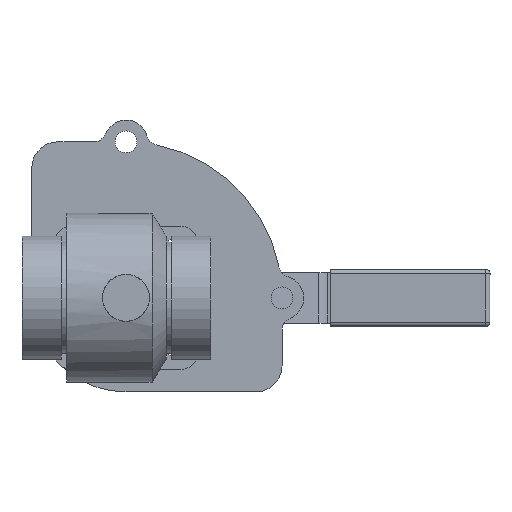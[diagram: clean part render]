
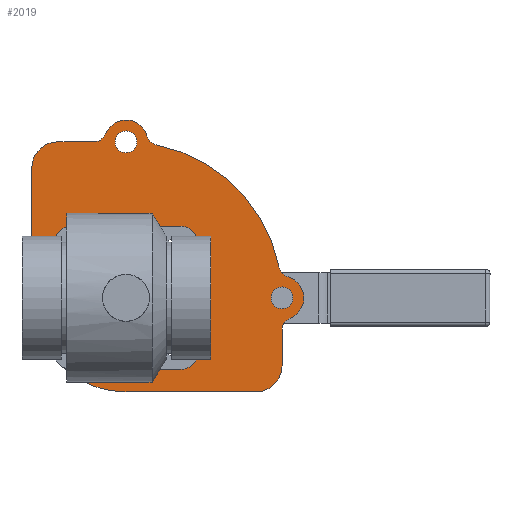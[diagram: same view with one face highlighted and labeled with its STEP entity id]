
A CAD part, front view. The second image highlights one B-rep face of the part: STEP entity #2019.
In plain terms, the highlighted planar face has unit normal (0, -1, 0).
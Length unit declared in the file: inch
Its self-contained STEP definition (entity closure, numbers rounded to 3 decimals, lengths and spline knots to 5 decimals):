
#53=FACE_BOUND('',#309,.T.);
#54=FACE_BOUND('',#310,.T.);
#55=FACE_BOUND('',#311,.T.);
#56=FACE_BOUND('',#312,.T.);
#57=FACE_BOUND('',#313,.T.);
#58=FACE_BOUND('',#314,.T.);
#59=FACE_BOUND('',#315,.T.);
#94=PLANE('',#2322);
#184=FACE_OUTER_BOUND('',#308,.T.);
#308=EDGE_LOOP('',(#1543,#1544,#1545,#1546,#1547,#1548,#1549,#1550,#1551,
#1552,#1553,#1554,#1555,#1556));
#309=EDGE_LOOP('',(#1557));
#310=EDGE_LOOP('',(#1558));
#311=EDGE_LOOP('',(#1559));
#312=EDGE_LOOP('',(#1560));
#313=EDGE_LOOP('',(#1561));
#314=EDGE_LOOP('',(#1562));
#315=EDGE_LOOP('',(#1563));
#425=LINE('',#3354,#576);
#429=LINE('',#3366,#580);
#439=LINE('',#3414,#590);
#443=LINE('',#3425,#594);
#576=VECTOR('',#2697,0.3937);
#580=VECTOR('',#2709,0.3937);
#590=VECTOR('',#2763,0.3937);
#594=VECTOR('',#2775,0.3937);
#727=CIRCLE('',#2269,0.21);
#729=CIRCLE('',#2272,0.19);
#731=CIRCLE('',#2275,0.19);
#733=CIRCLE('',#2278,0.19);
#735=CIRCLE('',#2281,0.19);
#737=CIRCLE('',#2284,0.21);
#739=CIRCLE('',#2287,0.36);
#740=CIRCLE('',#2289,1.81);
#742=CIRCLE('',#2293,0.5);
#744=CIRCLE('',#2297,0.25);
#746=CIRCLE('',#2300,0.42);
#748=CIRCLE('',#2303,0.25);
#750=CIRCLE('',#2306,3.);
#752=CIRCLE('',#2309,0.25);
#754=CIRCLE('',#2312,0.42);
#756=CIRCLE('',#2315,0.25);
#758=CIRCLE('',#2319,0.5);
#869=VERTEX_POINT('',#3304);
#871=VERTEX_POINT('',#3310);
#873=VERTEX_POINT('',#3316);
#875=VERTEX_POINT('',#3322);
#877=VERTEX_POINT('',#3328);
#879=VERTEX_POINT('',#3334);
#881=VERTEX_POINT('',#3340);
#882=VERTEX_POINT('',#3344);
#883=VERTEX_POINT('',#3345);
#886=VERTEX_POINT('',#3353);
#888=VERTEX_POINT('',#3359);
#890=VERTEX_POINT('',#3365);
#892=VERTEX_POINT('',#3371);
#894=VERTEX_POINT('',#3377);
#896=VERTEX_POINT('',#3383);
#898=VERTEX_POINT('',#3389);
#900=VERTEX_POINT('',#3395);
#902=VERTEX_POINT('',#3401);
#904=VERTEX_POINT('',#3407);
#906=VERTEX_POINT('',#3413);
#908=VERTEX_POINT('',#3419);
#1083=EDGE_CURVE('',#869,#869,#727,.T.);
#1086=EDGE_CURVE('',#871,#871,#729,.T.);
#1089=EDGE_CURVE('',#873,#873,#731,.T.);
#1092=EDGE_CURVE('',#875,#875,#733,.T.);
#1095=EDGE_CURVE('',#877,#877,#735,.T.);
#1098=EDGE_CURVE('',#879,#879,#737,.T.);
#1101=EDGE_CURVE('',#881,#881,#739,.T.);
#1102=EDGE_CURVE('',#882,#883,#740,.T.);
#1106=EDGE_CURVE('',#883,#886,#425,.T.);
#1109=EDGE_CURVE('',#886,#888,#742,.T.);
#1112=EDGE_CURVE('',#888,#890,#429,.T.);
#1115=EDGE_CURVE('',#890,#892,#744,.T.);
#1118=EDGE_CURVE('',#892,#894,#746,.T.);
#1121=EDGE_CURVE('',#894,#896,#748,.T.);
#1124=EDGE_CURVE('',#896,#898,#750,.T.);
#1127=EDGE_CURVE('',#898,#900,#752,.T.);
#1130=EDGE_CURVE('',#900,#902,#754,.T.);
#1133=EDGE_CURVE('',#902,#904,#756,.T.);
#1136=EDGE_CURVE('',#904,#906,#439,.T.);
#1139=EDGE_CURVE('',#906,#908,#758,.T.);
#1142=EDGE_CURVE('',#908,#882,#443,.T.);
#1543=ORIENTED_EDGE('',*,*,#1142,.T.);
#1544=ORIENTED_EDGE('',*,*,#1102,.T.);
#1545=ORIENTED_EDGE('',*,*,#1106,.T.);
#1546=ORIENTED_EDGE('',*,*,#1109,.T.);
#1547=ORIENTED_EDGE('',*,*,#1112,.T.);
#1548=ORIENTED_EDGE('',*,*,#1115,.T.);
#1549=ORIENTED_EDGE('',*,*,#1118,.T.);
#1550=ORIENTED_EDGE('',*,*,#1121,.T.);
#1551=ORIENTED_EDGE('',*,*,#1124,.T.);
#1552=ORIENTED_EDGE('',*,*,#1127,.T.);
#1553=ORIENTED_EDGE('',*,*,#1130,.T.);
#1554=ORIENTED_EDGE('',*,*,#1133,.T.);
#1555=ORIENTED_EDGE('',*,*,#1136,.T.);
#1556=ORIENTED_EDGE('',*,*,#1139,.T.);
#1557=ORIENTED_EDGE('',*,*,#1083,.T.);
#1558=ORIENTED_EDGE('',*,*,#1086,.T.);
#1559=ORIENTED_EDGE('',*,*,#1089,.T.);
#1560=ORIENTED_EDGE('',*,*,#1092,.T.);
#1561=ORIENTED_EDGE('',*,*,#1095,.T.);
#1562=ORIENTED_EDGE('',*,*,#1098,.T.);
#1563=ORIENTED_EDGE('',*,*,#1101,.T.);
#2019=ADVANCED_FACE('',(#184,#53,#54,#55,#56,#57,#58,#59),#94,.F.);
#2269=AXIS2_PLACEMENT_3D('',#3306,#2643,#2644);
#2272=AXIS2_PLACEMENT_3D('',#3312,#2650,#2651);
#2275=AXIS2_PLACEMENT_3D('',#3318,#2657,#2658);
#2278=AXIS2_PLACEMENT_3D('',#3324,#2664,#2665);
#2281=AXIS2_PLACEMENT_3D('',#3330,#2671,#2672);
#2284=AXIS2_PLACEMENT_3D('',#3336,#2678,#2679);
#2287=AXIS2_PLACEMENT_3D('',#3342,#2685,#2686);
#2289=AXIS2_PLACEMENT_3D('',#3346,#2689,#2690);
#2293=AXIS2_PLACEMENT_3D('',#3360,#2702,#2703);
#2297=AXIS2_PLACEMENT_3D('',#3372,#2714,#2715);
#2300=AXIS2_PLACEMENT_3D('',#3378,#2721,#2722);
#2303=AXIS2_PLACEMENT_3D('',#3384,#2728,#2729);
#2306=AXIS2_PLACEMENT_3D('',#3390,#2735,#2736);
#2309=AXIS2_PLACEMENT_3D('',#3396,#2742,#2743);
#2312=AXIS2_PLACEMENT_3D('',#3402,#2749,#2750);
#2315=AXIS2_PLACEMENT_3D('',#3408,#2756,#2757);
#2319=AXIS2_PLACEMENT_3D('',#3420,#2768,#2769);
#2322=AXIS2_PLACEMENT_3D('',#3427,#2777,#2778);
#2643=DIRECTION('center_axis',(0.,1.,0.));
#2644=DIRECTION('ref_axis',(-1.,0.,0.));
#2650=DIRECTION('center_axis',(0.,1.,0.));
#2651=DIRECTION('ref_axis',(-1.,0.,0.));
#2657=DIRECTION('center_axis',(0.,1.,0.));
#2658=DIRECTION('ref_axis',(-1.,0.,0.));
#2664=DIRECTION('center_axis',(0.,1.,0.));
#2665=DIRECTION('ref_axis',(-1.,0.,0.));
#2671=DIRECTION('center_axis',(0.,1.,0.));
#2672=DIRECTION('ref_axis',(-1.,0.,0.));
#2678=DIRECTION('center_axis',(0.,1.,0.));
#2679=DIRECTION('ref_axis',(-1.,0.,0.));
#2685=DIRECTION('center_axis',(0.,1.,0.));
#2686=DIRECTION('ref_axis',(-1.,0.,0.));
#2689=DIRECTION('center_axis',(0.,-1.,0.));
#2690=DIRECTION('ref_axis',(0.,0.,1.));
#2697=DIRECTION('',(1.,0.,0.));
#2702=DIRECTION('center_axis',(0.,-1.,0.));
#2703=DIRECTION('ref_axis',(-1.,0.,0.));
#2709=DIRECTION('',(0.,0.,1.));
#2714=DIRECTION('center_axis',(0.,1.,0.));
#2715=DIRECTION('ref_axis',(-1.,0.,0.));
#2721=DIRECTION('center_axis',(0.,-1.,0.));
#2722=DIRECTION('ref_axis',(-0.277,0.,-0.961));
#2728=DIRECTION('center_axis',(0.,1.,0.));
#2729=DIRECTION('ref_axis',(-0.277,0.,-0.961));
#2735=DIRECTION('center_axis',(0.,-1.,0.));
#2736=DIRECTION('ref_axis',(-0.198,0.,-0.98));
#2742=DIRECTION('center_axis',(0.,1.,0.));
#2743=DIRECTION('ref_axis',(-0.198,0.,-0.98));
#2749=DIRECTION('center_axis',(0.,-1.,0.));
#2750=DIRECTION('ref_axis',(0.928,0.,-0.373));
#2756=DIRECTION('center_axis',(0.,1.,0.));
#2757=DIRECTION('ref_axis',(0.928,0.,-0.373));
#2763=DIRECTION('',(-1.,0.,0.));
#2768=DIRECTION('center_axis',(0.,-1.,0.));
#2769=DIRECTION('ref_axis',(1.,0.,0.));
#2775=DIRECTION('',(0.,0.,-1.));
#2777=DIRECTION('center_axis',(0.,1.,0.));
#2778=DIRECTION('ref_axis',(0.,0.,1.));
#3304=CARTESIAN_POINT('',(3.21,0.,0.));
#3306=CARTESIAN_POINT('Origin',(3.,0.,0.));
#3310=CARTESIAN_POINT('',(-0.78227,0.,-0.97227));
#3312=CARTESIAN_POINT('Origin',(-0.97227,0.,-0.97227));
#3316=CARTESIAN_POINT('',(1.16227,0.,0.97227));
#3318=CARTESIAN_POINT('Origin',(0.97227,0.,0.97227));
#3322=CARTESIAN_POINT('',(1.16227,0.,-0.97227));
#3324=CARTESIAN_POINT('Origin',(0.97227,0.,-0.97227));
#3328=CARTESIAN_POINT('',(-0.78227,0.,0.97227));
#3330=CARTESIAN_POINT('Origin',(-0.97227,0.,0.97227));
#3334=CARTESIAN_POINT('',(0.21,0.,3.));
#3336=CARTESIAN_POINT('Origin',(0.,0.,3.));
#3340=CARTESIAN_POINT('',(0.36,0.,0.));
#3342=CARTESIAN_POINT('Origin',(0.,0.,0.));
#3344=CARTESIAN_POINT('',(-1.81,0.,0.));
#3345=CARTESIAN_POINT('',(0.,0.,-1.81));
#3346=CARTESIAN_POINT('Origin',(0.,0.,0.));
#3353=CARTESIAN_POINT('',(2.5,0.,-1.81));
#3354=CARTESIAN_POINT('',(0.,0.,-1.81));
#3359=CARTESIAN_POINT('',(3.,0.,-1.31));
#3360=CARTESIAN_POINT('Origin',(2.5,0.,-1.31));
#3365=CARTESIAN_POINT('',(3.,0.,-0.62161));
#3366=CARTESIAN_POINT('',(3.,0.,-1.31));
#3371=CARTESIAN_POINT('',(3.15672,0.,-0.38967));
#3372=CARTESIAN_POINT('Origin',(3.25,0.,-0.62161));
#3377=CARTESIAN_POINT('',(3.11635,0.,0.40356));
#3378=CARTESIAN_POINT('Origin',(3.,0.,0.));
#3383=CARTESIAN_POINT('',(2.94055,0.,0.59426));
#3384=CARTESIAN_POINT('Origin',(3.1856,0.,0.64378));
#3389=CARTESIAN_POINT('',(0.59426,0.,2.94055));
#3390=CARTESIAN_POINT('Origin',(0.,0.,0.));
#3395=CARTESIAN_POINT('',(0.40356,0.,3.11635));
#3396=CARTESIAN_POINT('Origin',(0.64378,0.,3.1856));
#3401=CARTESIAN_POINT('',(-0.38967,0.,3.15672));
#3402=CARTESIAN_POINT('Origin',(0.,0.,3.));
#3407=CARTESIAN_POINT('',(-0.62161,0.,3.));
#3408=CARTESIAN_POINT('Origin',(-0.62161,0.,3.25));
#3413=CARTESIAN_POINT('',(-1.31,0.,3.));
#3414=CARTESIAN_POINT('',(-0.62161,0.,3.));
#3419=CARTESIAN_POINT('',(-1.81,0.,2.5));
#3420=CARTESIAN_POINT('Origin',(-1.31,0.,2.5));
#3425=CARTESIAN_POINT('',(-1.81,0.,2.5));
#3427=CARTESIAN_POINT('Origin',(0.50298,0.,0.50298));
